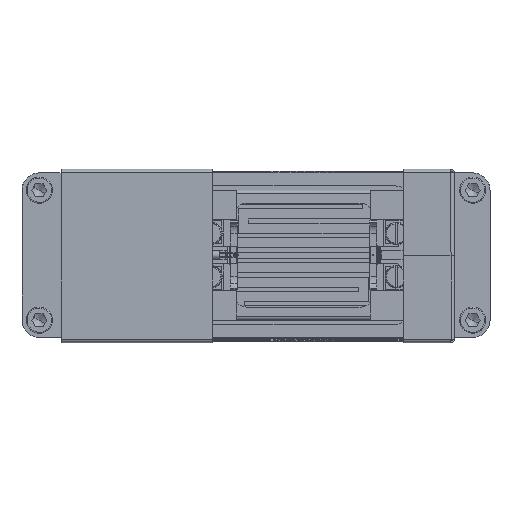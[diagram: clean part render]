
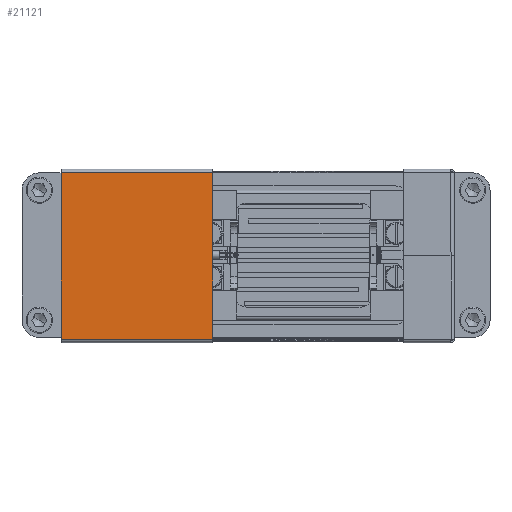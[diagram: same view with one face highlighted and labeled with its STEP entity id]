
A CAD part, top view. The second image highlights one B-rep face of the part: STEP entity #21121.
In plain terms, the highlighted planar face has unit normal (0, 0, 1).
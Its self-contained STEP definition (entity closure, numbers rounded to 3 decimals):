
#21101=AXIS2_PLACEMENT_3D('Plane Axis2P3D',#21098,#21099,#21100) ;
#20977=CARTESIAN_POINT('Vertex',(6.,9.5,8.7)) ;
#21013=CARTESIAN_POINT('Line Origine',(-2.75,9.5,8.7)) ;
#21017=CARTESIAN_POINT('Vertex',(-11.5,9.5,8.7)) ;
#21082=CARTESIAN_POINT('Vertex',(-11.5,-9.7,8.7)) ;
#21085=CARTESIAN_POINT('Line Origine',(-11.5,-0.1,8.7)) ;
#21098=CARTESIAN_POINT('Axis2P3D Location',(-2.75,9.5,8.7)) ;
#21103=CARTESIAN_POINT('Line Origine',(-2.75,-9.7,8.7)) ;
#21107=CARTESIAN_POINT('Vertex',(6.,-9.7,8.7)) ;
#21110=CARTESIAN_POINT('Line Origine',(6.,-0.1,8.7)) ;
#21014=DIRECTION('Vector Direction',(1.,0.,0.)) ;
#21086=DIRECTION('Vector Direction',(0.,1.,0.)) ;
#21099=DIRECTION('Axis2P3D Direction',(0.,0.,1.)) ;
#21100=DIRECTION('Axis2P3D XDirection',(0.,-1.,0.)) ;
#21104=DIRECTION('Vector Direction',(1.,0.,0.)) ;
#21111=DIRECTION('Vector Direction',(0.,1.,0.)) ;
#21015=VECTOR('Line Direction',#21014,1.) ;
#21087=VECTOR('Line Direction',#21086,1.) ;
#21105=VECTOR('Line Direction',#21104,1.) ;
#21112=VECTOR('Line Direction',#21111,1.) ;
#21116=ORIENTED_EDGE('',*,*,#21109,.T.) ;
#21117=ORIENTED_EDGE('',*,*,#21114,.T.) ;
#21118=ORIENTED_EDGE('',*,*,#21019,.F.) ;
#21119=ORIENTED_EDGE('',*,*,#21089,.F.) ;
#21121=ADVANCED_FACE('Brep With Voids.1',(#21120),#21102,.T.) ;
#21019=EDGE_CURVE('',#21018,#20978,#21016,.T.) ;
#21089=EDGE_CURVE('',#21083,#21018,#21088,.T.) ;
#21109=EDGE_CURVE('',#21083,#21108,#21106,.T.) ;
#21114=EDGE_CURVE('',#21108,#20978,#21113,.T.) ;
#21115=EDGE_LOOP('',(#21116,#21117,#21118,#21119)) ;
#21120=FACE_OUTER_BOUND('',#21115,.T.) ;
#21016=LINE('Line',#21013,#21015) ;
#21088=LINE('Line',#21085,#21087) ;
#21106=LINE('Line',#21103,#21105) ;
#21113=LINE('Line',#21110,#21112) ;
#21102=PLANE('',#21101) ;
#20978=VERTEX_POINT('',#20977) ;
#21018=VERTEX_POINT('',#21017) ;
#21083=VERTEX_POINT('',#21082) ;
#21108=VERTEX_POINT('',#21107) ;
